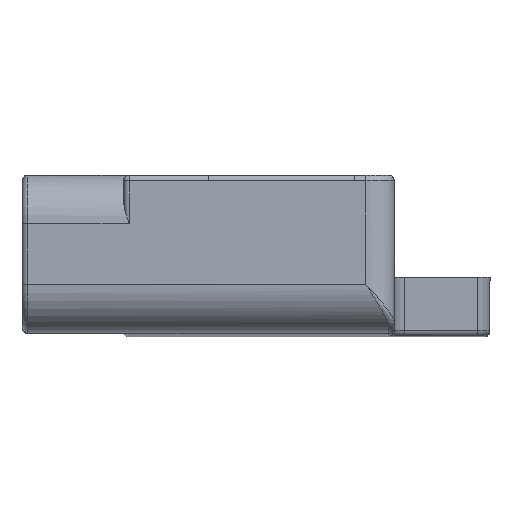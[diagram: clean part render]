
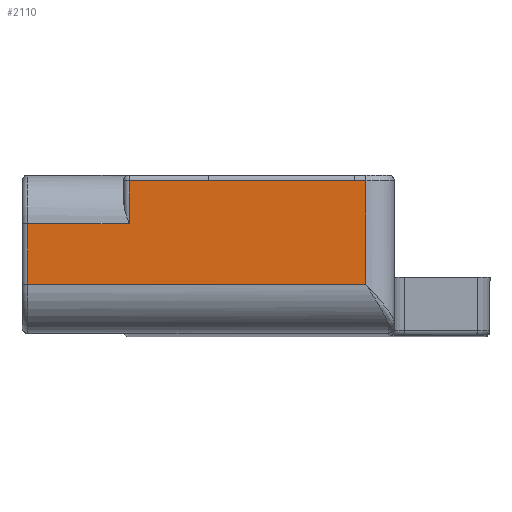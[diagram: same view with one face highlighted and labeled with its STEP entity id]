
A CAD part, top view. The second image highlights one B-rep face of the part: STEP entity #2110.
In plain terms, the highlighted planar face has unit normal (0, 0, 1).
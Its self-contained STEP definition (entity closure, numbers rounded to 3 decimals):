
#76 = CARTESIAN_POINT ( 'NONE',  ( -15., 4.5, 173.65 ) ) ;
#127 = CARTESIAN_POINT ( 'NONE',  ( -6., 8.3, 173.65 ) ) ;
#151 = CARTESIAN_POINT ( 'NONE',  ( 15., 8.3, 173.65 ) ) ;
#161 = CARTESIAN_POINT ( 'NONE',  ( -15., -0.9, 173.65 ) ) ;
#200 = CARTESIAN_POINT ( 'NONE',  ( -6.5, -5.2, 173.65 ) ) ;
#201 = PLANE ( 'NONE',  #690 ) ;
#224 = DIRECTION ( 'NONE',  ( 0., 0., 1. ) ) ;
#226 = DIRECTION ( 'NONE',  ( 0., 1., 0. ) ) ;
#468 = CARTESIAN_POINT ( 'NONE',  ( 15., -0.9, 173.65 ) ) ;
#480 = CARTESIAN_POINT ( 'NONE',  ( -6., 4.5, 173.65 ) ) ;
#550 = CARTESIAN_POINT ( 'NONE',  ( -15., -5.2, 173.65 ) ) ;
#582 = DIRECTION ( 'NONE',  ( 0., -1., 0. ) ) ;
#690 = AXIS2_PLACEMENT_3D ( 'NONE', #200, #224, #226 ) ;
#824 = LINE ( 'NONE', #1593, #874 ) ;
#874 = VECTOR ( 'NONE', #2658, 1000. ) ;
#916 = EDGE_CURVE ( 'NONE', #2458, #2426, #1233, .T. ) ;
#992 = ORIENTED_EDGE ( 'NONE', *, *, #916, .T. ) ;
#1001 = ORIENTED_EDGE ( 'NONE', *, *, #1692, .F. ) ;
#1004 = ORIENTED_EDGE ( 'NONE', *, *, #1767, .T. ) ;
#1012 = ORIENTED_EDGE ( 'NONE', *, *, #1940, .T. ) ;
#1105 = FACE_OUTER_BOUND ( 'NONE', #2003, .T. ) ;
#1175 = LINE ( 'NONE', #550, #1176 ) ;
#1176 = VECTOR ( 'NONE', #582, 1000. ) ;
#1231 = VECTOR ( 'NONE', #2260, 1000. ) ;
#1233 = LINE ( 'NONE', #2268, #1231 ) ;
#1290 = LINE ( 'NONE', #1451, #1296 ) ;
#1296 = VECTOR ( 'NONE', #1444, 1000. ) ;
#1297 = VECTOR ( 'NONE', #1452, 1000. ) ;
#1306 = LINE ( 'NONE', #1458, #1297 ) ;
#1431 = VECTOR ( 'NONE', #1912, 1000. ) ;
#1432 = LINE ( 'NONE', #1919, #1431 ) ;
#1444 = DIRECTION ( 'NONE',  ( 1., 0., 0. ) ) ;
#1451 = CARTESIAN_POINT ( 'NONE',  ( -15.5, 4.5, 173.65 ) ) ;
#1452 = DIRECTION ( 'NONE',  ( -1., 0., 0. ) ) ;
#1458 = CARTESIAN_POINT ( 'NONE',  ( -6.5, 8.3, 173.65 ) ) ;
#1593 = CARTESIAN_POINT ( 'NONE',  ( 15., -5.2, 173.65 ) ) ;
#1689 = EDGE_CURVE ( 'NONE', #2467, #2458, #1306, .T. ) ;
#1692 = EDGE_CURVE ( 'NONE', #2474, #2426, #1290, .T. ) ;
#1749 = EDGE_CURVE ( 'NONE', #2413, #2467, #824, .T. ) ;
#1767 = EDGE_CURVE ( 'NONE', #2439, #2413, #1432, .T. ) ;
#1881 = ORIENTED_EDGE ( 'NONE', *, *, #1689, .T. ) ;
#1883 = ORIENTED_EDGE ( 'NONE', *, *, #1749, .T. ) ;
#1912 = DIRECTION ( 'NONE',  ( 1., 0., 0. ) ) ;
#1919 = CARTESIAN_POINT ( 'NONE',  ( -15.5, -0.9, 173.65 ) ) ;
#1940 = EDGE_CURVE ( 'NONE', #2474, #2439, #1175, .T. ) ;
#2003 = EDGE_LOOP ( 'NONE', ( #1001, #1012, #1004, #1883, #1881, #992 ) ) ;
#2110 = ADVANCED_FACE ( 'NONE', ( #1105 ), #201, .T. ) ;
#2260 = DIRECTION ( 'NONE',  ( 0., -1., 0. ) ) ;
#2268 = CARTESIAN_POINT ( 'NONE',  ( -6., -5.2, 173.65 ) ) ;
#2413 = VERTEX_POINT ( 'NONE', #468 ) ;
#2426 = VERTEX_POINT ( 'NONE', #480 ) ;
#2439 = VERTEX_POINT ( 'NONE', #161 ) ;
#2458 = VERTEX_POINT ( 'NONE', #127 ) ;
#2467 = VERTEX_POINT ( 'NONE', #151 ) ;
#2474 = VERTEX_POINT ( 'NONE', #76 ) ;
#2658 = DIRECTION ( 'NONE',  ( 0., 1., 0. ) ) ;
